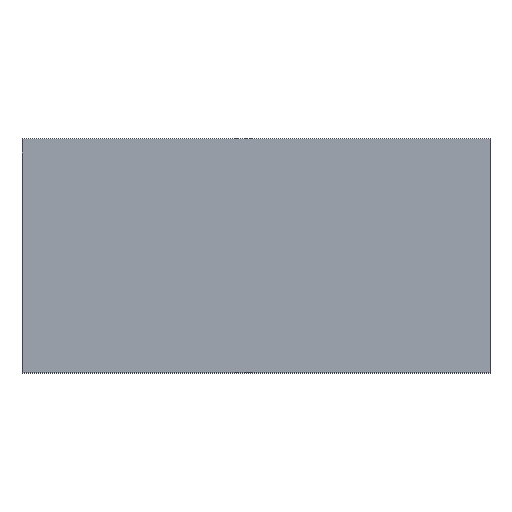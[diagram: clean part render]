
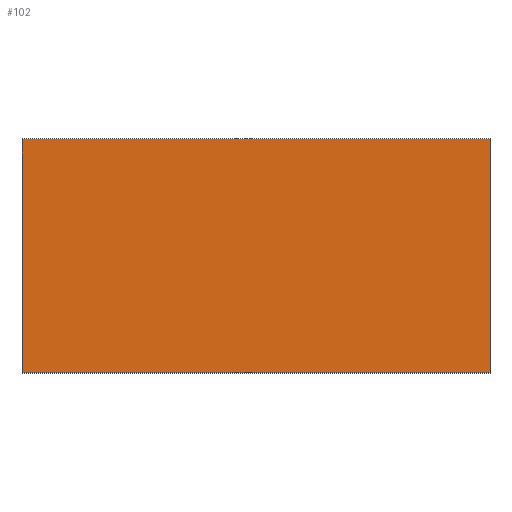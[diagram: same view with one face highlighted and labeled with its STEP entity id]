
A CAD part, top view. The second image highlights one B-rep face of the part: STEP entity #102.
In plain terms, the highlighted planar face has unit normal (0, 0, 1).
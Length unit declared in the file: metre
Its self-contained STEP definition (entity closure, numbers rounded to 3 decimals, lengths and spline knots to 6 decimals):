
#28=ORIENTED_EDGE('',*,*,#38,.F.);
#29=ORIENTED_EDGE('',*,*,#42,.T.);
#30=ORIENTED_EDGE('',*,*,#45,.T.);
#31=ORIENTED_EDGE('',*,*,#47,.F.);
#38=EDGE_CURVE('',#50,#51,#58,.T.);
#42=EDGE_CURVE('',#50,#53,#62,.T.);
#45=EDGE_CURVE('',#53,#55,#65,.T.);
#47=EDGE_CURVE('',#51,#55,#67,.T.);
#50=VERTEX_POINT('',#155);
#51=VERTEX_POINT('',#157);
#53=VERTEX_POINT('',#163);
#55=VERTEX_POINT('',#169);
#58=LINE('',#156,#70);
#62=LINE('',#164,#74);
#65=LINE('',#170,#77);
#67=LINE('',#173,#79);
#70=VECTOR('',#129,1.);
#74=VECTOR('',#135,1.);
#77=VECTOR('',#140,1.);
#79=VECTOR('',#144,1.);
#84=EDGE_LOOP('',(#28,#29,#30,#31));
#90=FACE_BOUND('',#84,.T.);
#96=PLANE('',#121);
#102=ADVANCED_FACE('',(#90),#96,.T.);
#121=AXIS2_PLACEMENT_3D('',#174,#145,#146);
#129=DIRECTION('',(0.,-1.,0.));
#135=DIRECTION('',(-1.,0.,0.));
#140=DIRECTION('',(0.,-1.,0.));
#144=DIRECTION('',(-1.,0.,0.));
#145=DIRECTION('',(0.,0.,1.));
#146=DIRECTION('',(1.,0.,0.));
#155=CARTESIAN_POINT('',(0.066093,-0.013733,0.0028));
#156=CARTESIAN_POINT('',(0.066093,-0.018733,0.0028));
#157=CARTESIAN_POINT('',(0.066093,-0.023733,0.0028));
#163=CARTESIAN_POINT('',(0.046093,-0.013733,0.0028));
#164=CARTESIAN_POINT('',(0.056093,-0.013733,0.0028));
#169=CARTESIAN_POINT('',(0.046093,-0.023733,0.0028));
#170=CARTESIAN_POINT('',(0.046093,-0.018733,0.0028));
#173=CARTESIAN_POINT('',(0.056093,-0.023733,0.0028));
#174=CARTESIAN_POINT('',(0.056093,-0.018733,0.0028));
